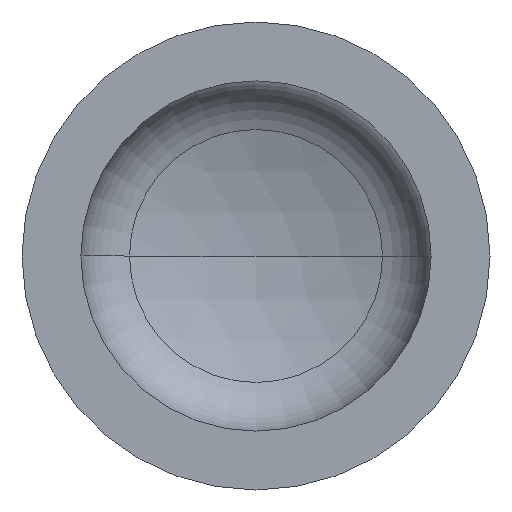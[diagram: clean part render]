
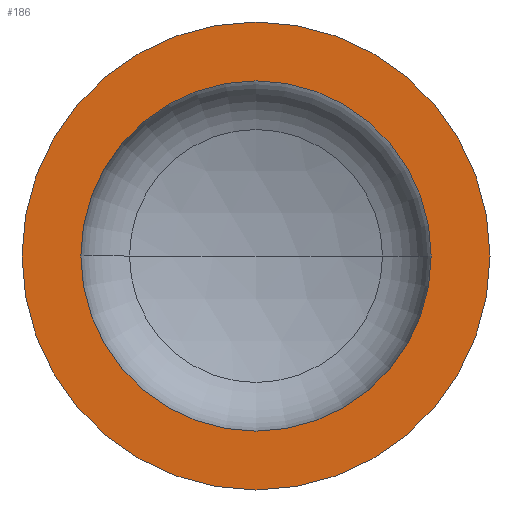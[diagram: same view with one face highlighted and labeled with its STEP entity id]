
A CAD part, front view. The second image highlights one B-rep face of the part: STEP entity #186.
In plain terms, the highlighted planar face has unit normal (0, -1, 0).
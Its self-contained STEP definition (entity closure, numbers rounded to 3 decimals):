
#7 = AXIS2_PLACEMENT_3D ( 'NONE', #253, #408, #410 ) ;
#23 = ORIENTED_EDGE ( 'NONE', *, *, #401, .F. ) ;
#43 = EDGE_LOOP ( 'NONE', ( #130, #23 ) ) ;
#44 = ORIENTED_EDGE ( 'NONE', *, *, #388, .T. ) ;
#46 = AXIS2_PLACEMENT_3D ( 'NONE', #247, #226, #241 ) ;
#75 = VERTEX_POINT ( 'NONE', #266 ) ;
#90 = AXIS2_PLACEMENT_3D ( 'NONE', #362, #195, #383 ) ;
#92 = AXIS2_PLACEMENT_3D ( 'NONE', #361, #358, #355 ) ;
#97 = VERTEX_POINT ( 'NONE', #263 ) ;
#103 = ORIENTED_EDGE ( 'NONE', *, *, #117, .T. ) ;
#106 = VERTEX_POINT ( 'NONE', #346 ) ;
#117 = EDGE_CURVE ( 'NONE', #75, #97, #162, .T. ) ;
#118 = EDGE_CURVE ( 'NONE', #106, #143, #396, .T. ) ;
#130 = ORIENTED_EDGE ( 'NONE', *, *, #118, .F. ) ;
#143 = VERTEX_POINT ( 'NONE', #194 ) ;
#162 = CIRCLE ( 'NONE', #92, 350. ) ;
#163 = CIRCLE ( 'NONE', #7, 350. ) ;
#175 = EDGE_LOOP ( 'NONE', ( #44, #103 ) ) ;
#176 = DIRECTION ( 'NONE',  ( 1., 0., 0. ) ) ;
#186 = ADVANCED_FACE ( 'NONE', ( #202, #333 ), #211, .F. ) ;
#191 = AXIS2_PLACEMENT_3D ( 'NONE', #250, #316, #176 ) ;
#194 = CARTESIAN_POINT ( 'NONE',  ( -262., 0., 0. ) ) ;
#195 = DIRECTION ( 'NONE',  ( 0., -1., 0. ) ) ;
#202 = FACE_BOUND ( 'NONE', #43, .T. ) ;
#211 = PLANE ( 'NONE',  #46 ) ;
#226 = DIRECTION ( 'NONE',  ( 0., 1., 0. ) ) ;
#241 = DIRECTION ( 'NONE',  ( -1., 0., 0. ) ) ;
#247 = CARTESIAN_POINT ( 'NONE',  ( -350., 0., 0. ) ) ;
#250 = CARTESIAN_POINT ( 'NONE',  ( 0., 0., 0. ) ) ;
#253 = CARTESIAN_POINT ( 'NONE',  ( 0., 0., 0. ) ) ;
#263 = CARTESIAN_POINT ( 'NONE',  ( 350., 0., 0. ) ) ;
#266 = CARTESIAN_POINT ( 'NONE',  ( -350., 0., 0. ) ) ;
#316 = DIRECTION ( 'NONE',  ( 0., -1., 0. ) ) ;
#333 = FACE_OUTER_BOUND ( 'NONE', #175, .T. ) ;
#337 = CIRCLE ( 'NONE', #191, 262. ) ;
#346 = CARTESIAN_POINT ( 'NONE',  ( 262., 0., 0. ) ) ;
#355 = DIRECTION ( 'NONE',  ( 1., 0., 0. ) ) ;
#358 = DIRECTION ( 'NONE',  ( 0., -1., 0. ) ) ;
#361 = CARTESIAN_POINT ( 'NONE',  ( 0., 0., 0. ) ) ;
#362 = CARTESIAN_POINT ( 'NONE',  ( 0., 0., 0. ) ) ;
#383 = DIRECTION ( 'NONE',  ( 1., 0., 0. ) ) ;
#388 = EDGE_CURVE ( 'NONE', #97, #75, #163, .T. ) ;
#396 = CIRCLE ( 'NONE', #90, 262. ) ;
#401 = EDGE_CURVE ( 'NONE', #143, #106, #337, .T. ) ;
#408 = DIRECTION ( 'NONE',  ( 0., -1., 0. ) ) ;
#410 = DIRECTION ( 'NONE',  ( 1., 0., 0. ) ) ;
